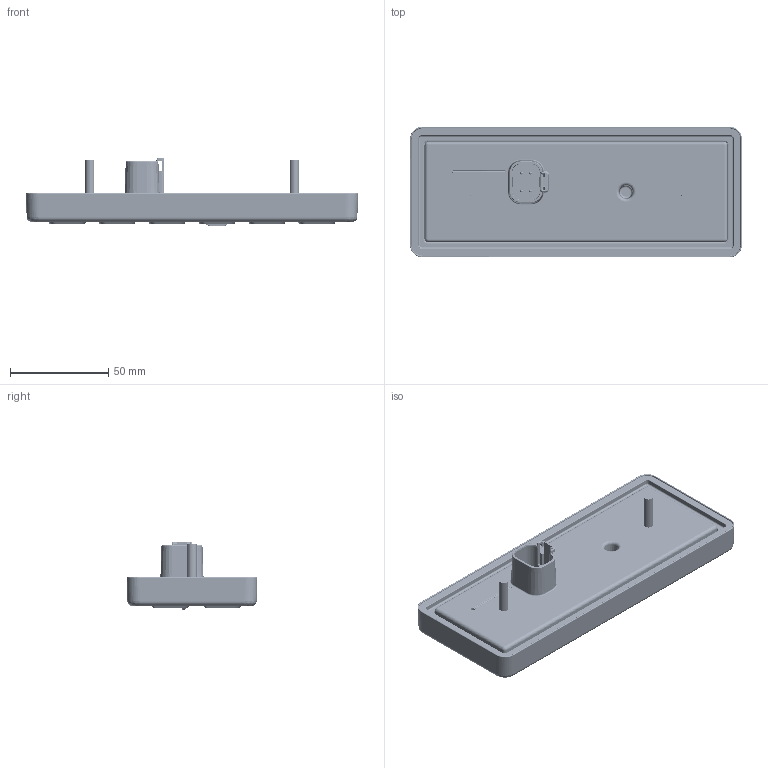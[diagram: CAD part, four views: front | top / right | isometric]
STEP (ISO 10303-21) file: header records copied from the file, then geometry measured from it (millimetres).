
FILE_DESCRIPTION (( 'STEP AP214' ), '1' );
FILE_NAME ('CL-6026_2X6_05MAR2025.STEP', '2025-03-05T18:08:28', ( '' ), ( '' ), 'SwSTEP 2.0', 'SolidWorks 2024', '' );
FILE_SCHEMA (( 'AUTOMOTIVE_DESIGN' ));
Length unit declared in the file: inch
Products named in the file (14): CL-6026-502; 415-11-618; CL-6026_2X6_05MAR2025; PM-065-400-G; 175-0314-S0-G; 485-15-604; 186-25-600_02; CL-6026-501; 171-02-624; 186-25-600_01; 186-25-600; 175-0314-S0-G_PIN; CL-6026-500
Assembly tree (16 placements, depth 4):
  CL-6026_2X6_05MAR2025
    186-25-600
      186-25-600_01
      186-25-600_02
    PM-065-400-G
      175-0314-S0-G
        175-0314-S0-G
        175-0314-S0-G_PIN  x4
    CL-6026-502
      CL-6026-500
        CL-6026-501
        415-11-618  x2
      485-15-604
  171-02-624
Bounding box: 168.89 x 66.4 x 35 mm (x, y, z)
Volume: 85782.7 mm3; surface area: 88353.5 mm2
Topology: 12 solids, 36 shells, 8798 faces, 21679 edges, 13074 vertices
Faces by surface type: plane 2760, cylinder 2338, bspline 1712, cone 1178, torus 453, sphere 357
Entity records: 302213 total; most frequent: CARTESIAN_POINT 110128, ORIENTED_EDGE 42154, DIRECTION 38356, EDGE_CURVE 21077, AXIS2_PLACEMENT_3D 14137, VERTEX_POINT 12787, VECTOR 10082, LINE 10082
